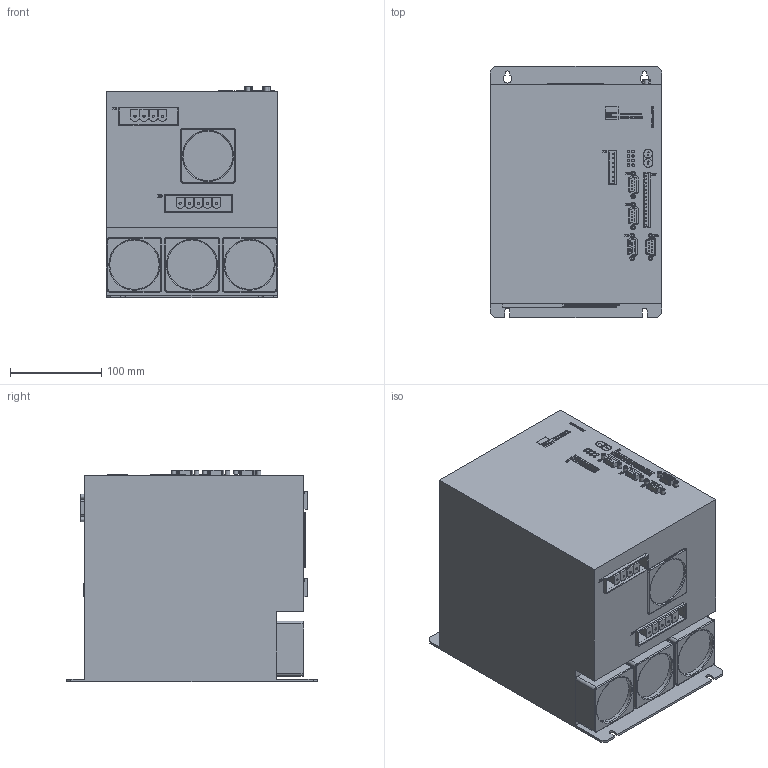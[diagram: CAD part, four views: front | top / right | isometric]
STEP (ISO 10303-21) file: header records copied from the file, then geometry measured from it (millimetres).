
FILE_DESCRIPTION(/* description */ ('Alibre Inc.'),/* implementation_level */ '2;1');
FILE_NAME(/* name */ 'export0',/* time_stamp */ '2011-02-11T08:30:00+01:00',/* author */ (''),/* organization */ ('ESR Pollmeier GmbH'),/* preprocessor_version */ 'ST-DEVELOPER v10',/* originating_system */ 'Alibre',/* authorisation */ '');
FILE_SCHEMA (('CONFIG_CONTROL_DESIGN'));
Length unit declared in the file: centimetre
Products named in the file (1): ID_1
Bounding box: 188 x 275 x 231 mm (x, y, z)
Surface area: 358245.7 mm2
Topology: 20 solids, 31 shells, 2012 faces, 5091 edges, 3372 vertices
Faces by surface type: plane 1043, bspline 694, cylinder 247, torus 28
Full cylindrical faces by diameter (mm): 1 x66, 2 x4, 2.5 x29, 3 x10, 5 x20, 9.5 x2, 54 x4
Entity records: 59122 total; most frequent: CARTESIAN_POINT 16529, ORIENTED_EDGE 9928, DIRECTION 5586, EDGE_CURVE 4944, VERTEX_POINT 3372, VECTOR 3054, LINE 3054, EDGE_LOOP 2454
